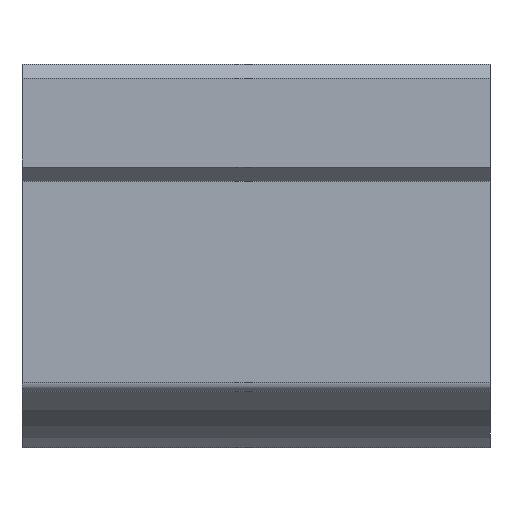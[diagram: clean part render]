
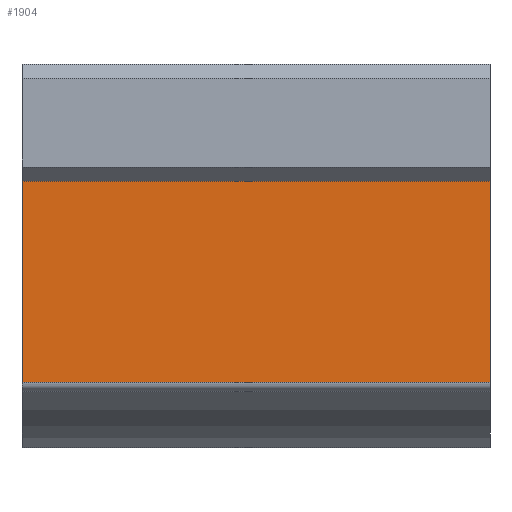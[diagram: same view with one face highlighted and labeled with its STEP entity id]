
A CAD part, front view. The second image highlights one B-rep face of the part: STEP entity #1904.
In plain terms, the highlighted planar face has unit normal (0, -1, 0).
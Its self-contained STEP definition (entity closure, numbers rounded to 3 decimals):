
#1641=CARTESIAN_POINT('',(50.0,-25.5,8.5));
#1642=VERTEX_POINT('',#1641);
#1649=CARTESIAN_POINT('',(50.0,-25.5,-13.));
#1650=VERTEX_POINT('',#1649);
#1651=CARTESIAN_POINT('',(50.0,-25.5,-13.));
#1652=DIRECTION('',(0.0,0.0,1.0));
#1653=VECTOR('',#1652,21.5);
#1654=LINE('',#1651,#1653);
#1655=EDGE_CURVE('',#1650,#1642,#1654,.T.);
#1719=CARTESIAN_POINT('',(0.0,-25.5,-13.));
#1720=VERTEX_POINT('',#1719);
#1721=CARTESIAN_POINT('',(50.0,-25.5,-13.));
#1722=DIRECTION('',(-1.0,0.0,0.0));
#1723=VECTOR('',#1722,50.0);
#1724=LINE('',#1721,#1723);
#1725=EDGE_CURVE('',#1650,#1720,#1724,.T.);
#1785=CARTESIAN_POINT('',(0.0,-25.5,8.5));
#1786=VERTEX_POINT('',#1785);
#1787=CARTESIAN_POINT('',(0.0,-25.5,8.5));
#1788=DIRECTION('',(0.0,0.0,-1.0));
#1789=VECTOR('',#1788,21.5);
#1790=LINE('',#1787,#1789);
#1791=EDGE_CURVE('',#1786,#1720,#1790,.T.);
#1888=CARTESIAN_POINT('',(0.0,-25.5,-14.));
#1889=DIRECTION('',(0.0,-1.0,0.0));
#1890=DIRECTION('',(0.0,0.0,-1.0));
#1891=AXIS2_PLACEMENT_3D('',#1888,#1889,#1890);
#1892=PLANE('',#1891);
#1893=ORIENTED_EDGE('',*,*,#1725,.F.);
#1894=ORIENTED_EDGE('',*,*,#1655,.T.);
#1895=CARTESIAN_POINT('',(0.0,-25.5,8.5));
#1896=DIRECTION('',(1.0,0.0,0.0));
#1897=VECTOR('',#1896,50.0);
#1898=LINE('',#1895,#1897);
#1899=EDGE_CURVE('',#1786,#1642,#1898,.T.);
#1900=ORIENTED_EDGE('',*,*,#1899,.F.);
#1901=ORIENTED_EDGE('',*,*,#1791,.T.);
#1902=EDGE_LOOP('',(#1893,#1894,#1900,#1901));
#1903=FACE_OUTER_BOUND('',#1902,.T.);
#1904=ADVANCED_FACE('',(#1903),#1892,.T.);
